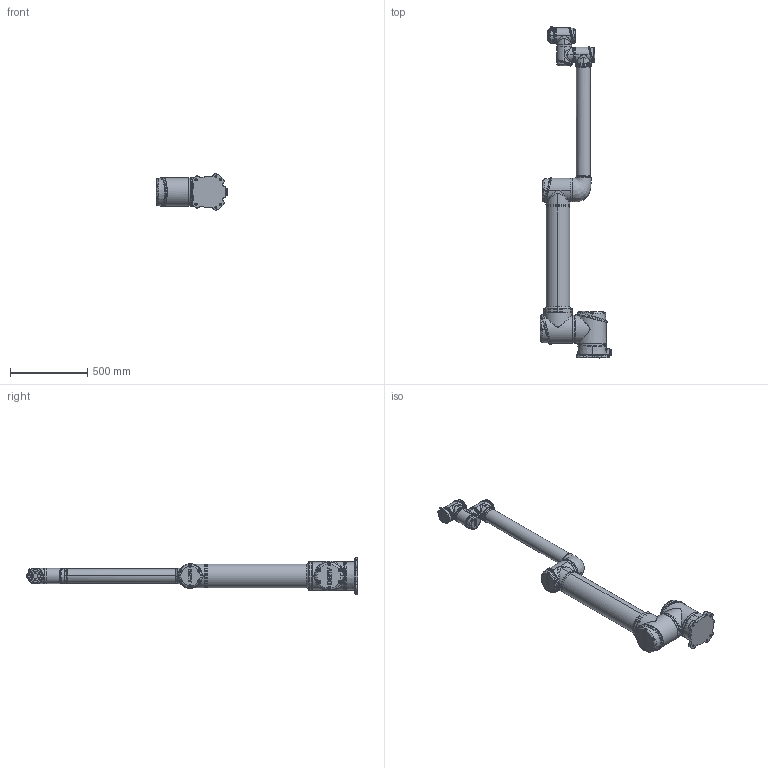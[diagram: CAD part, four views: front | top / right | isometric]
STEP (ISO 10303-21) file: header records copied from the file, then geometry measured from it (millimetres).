
FILE_DESCRIPTION (( 'STEP AP203' ), '1' );
FILE_NAME ('iS16（简化模型）.STEP', '2026-06-30T08:44:50', ( '' ), ( '' ), 'SwSTEP 2.0', 'SolidWorks 2024', '' );
FILE_SCHEMA (( 'CONFIG_CONTROL_DESIGN' ));
Length unit declared in the file: millimetre
Products named in the file (7): iS20-末端简化; iS16-小臂管875; iS16（简化模型）; M20P-关节简化; iS20-底座简化; iS16-大臂管外发900; M40P-关节简化
Assembly tree (7 placements, depth 2):
  iS16（简化模型）
    iS20-底座简化
    M40P-关节简化
    M20P-关节简化  x2
    iS20-末端简化
    iS16-大臂管外发900
    iS16-小臂管875
Bounding box: 465.3 x 2146.5 x 235.36 mm (x, y, z)
Volume: 18826610.7 mm3; surface area: 1879743.1 mm2
Topology: 15 solids, 55 shells, 3316 faces, 8322 edges, 5308 vertices
Faces by surface type: plane 1065, cylinder 790, bspline 717, torus 349, cone 323, sphere 72
Entity records: 168464 total; most frequent: CARTESIAN_POINT 102185, ORIENTED_EDGE 15079, DIRECTION 11570, EDGE_CURVE 7541, VERTEX_POINT 4819, AXIS2_PLACEMENT_3D 4720, EDGE_LOOP 3315, FACE_OUTER_BOUND 3045
